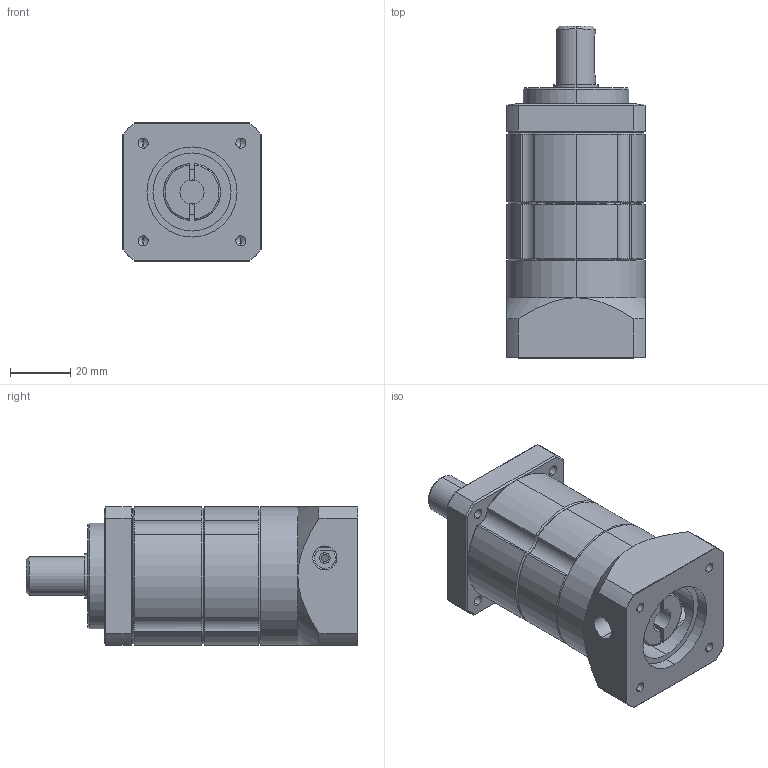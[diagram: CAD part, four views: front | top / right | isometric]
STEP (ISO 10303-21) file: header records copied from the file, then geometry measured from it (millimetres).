
FILE_DESCRIPTION (( 'STEP AP203' ), '1' );
FILE_NAME ('KX40-L2£r30PCD£r46M4.STEP', '2014-04-17T00:23:41', ( 'KELLY' ), ( '' ), 'SwSTEP 2.0', 'SolidWorks 2012', '' );
FILE_SCHEMA (( 'CONFIG_CONTROL_DESIGN' ));
Length unit declared in the file: millimetre
Products named in the file (1): KX40-L2｣r30PCD｣r46M4
Bounding box: 46 x 110.5 x 46 mm (x, y, z)
Volume: 144452.7 mm3; surface area: 34843 mm2
Topology: 4 solids, 4 shells, 213 faces, 504 edges, 303 vertices
Faces by surface type: cylinder 84, cone 76, plane 49, torus 4
Entity records: 6679 total; most frequent: CARTESIAN_POINT 1699, DIRECTION 1072, ORIENTED_EDGE 988, EDGE_CURVE 494, AXIS2_PLACEMENT_3D 450, VERTEX_POINT 303, EDGE_LOOP 247, CIRCLE 236
